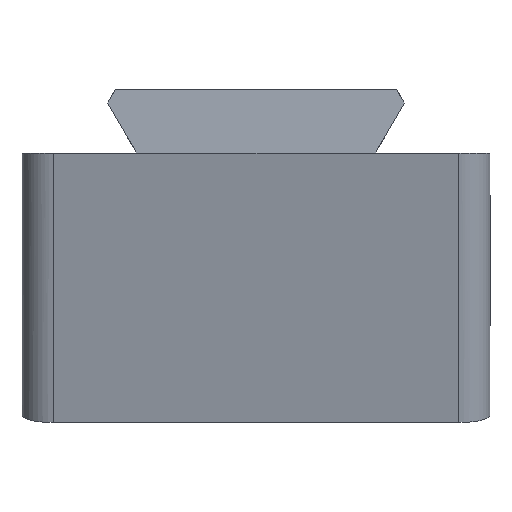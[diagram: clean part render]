
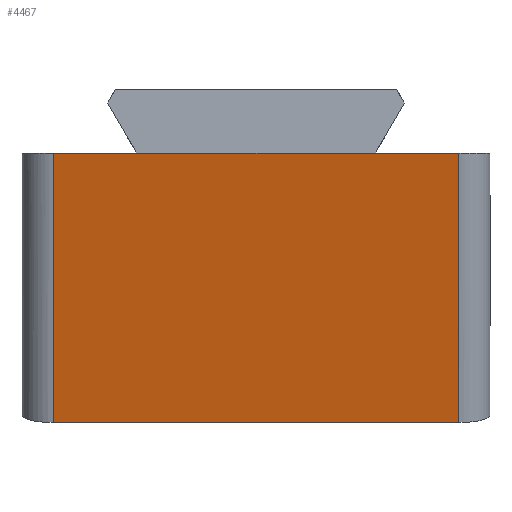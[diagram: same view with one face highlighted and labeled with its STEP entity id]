
A CAD part, left-side view. The second image highlights one B-rep face of the part: STEP entity #4467.
In plain terms, the highlighted planar face has unit normal (-0.974, 0, -0.225).
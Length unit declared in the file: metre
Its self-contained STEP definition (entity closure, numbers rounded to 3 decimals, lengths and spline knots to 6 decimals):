
#652=ORIENTED_EDGE('',*,*,#1782,.T.);
#653=ORIENTED_EDGE('',*,*,#1969,.T.);
#654=ORIENTED_EDGE('',*,*,#1712,.F.);
#655=ORIENTED_EDGE('',*,*,#1970,.T.);
#656=ORIENTED_EDGE('',*,*,#1794,.T.);
#657=ORIENTED_EDGE('',*,*,#1964,.T.);
#1712=EDGE_CURVE('',#2389,#2390,#2840,.T.);
#1782=EDGE_CURVE('',#2450,#2457,#2885,.T.);
#1794=EDGE_CURVE('',#2466,#2442,#2891,.T.);
#1964=EDGE_CURVE('',#2442,#2450,#2977,.T.);
#1969=EDGE_CURVE('',#2457,#2390,#2978,.T.);
#1970=EDGE_CURVE('',#2389,#2466,#2979,.F.);
#2389=VERTEX_POINT('',#6016);
#2390=VERTEX_POINT('',#6018);
#2442=VERTEX_POINT('',#6129);
#2450=VERTEX_POINT('',#6147);
#2457=VERTEX_POINT('',#6164);
#2466=VERTEX_POINT('',#6186);
#2840=LINE('',#6017,#3289);
#2885=LINE('',#6165,#3334);
#2891=LINE('',#6185,#3340);
#2977=LINE('',#6644,#3426);
#2978=LINE('',#6656,#3427);
#2979=LINE('',#6657,#3428);
#3289=VECTOR('',#5004,1.);
#3334=VECTOR('',#5119,1.);
#3340=VECTOR('',#5137,1.);
#3426=VECTOR('',#5283,1.);
#3427=VECTOR('',#5302,1.);
#3428=VECTOR('',#5303,1.);
#3779=EDGE_LOOP('',(#652,#653,#654,#655,#656,#657));
#4064=FACE_BOUND('',#3779,.T.);
#4322=PLANE('',#4791);
#4467=ADVANCED_FACE('',(#4064),#4322,.F.);
#4791=AXIS2_PLACEMENT_3D('',#6655,#5300,#5301);
#5004=DIRECTION('',(0.,1.,0.));
#5119=DIRECTION('',(0.,1.,0.));
#5137=DIRECTION('',(0.,1.,0.));
#5283=DIRECTION('',(0.,1.,0.));
#5300=DIRECTION('',(0.974,0.,0.225));
#5301=DIRECTION('',(0.225,0.,-0.974));
#5302=DIRECTION('',(0.225,0.,-0.974));
#5303=DIRECTION('',(0.225,0.,-0.974));
#6016=CARTESIAN_POINT('',(0.003981,-0.013,-0.017244));
#6017=CARTESIAN_POINT('',(0.003981,-0.015,-0.017244));
#6018=CARTESIAN_POINT('',(0.003981,0.013,-0.017244));
#6129=CARTESIAN_POINT('',(0.,-0.007695,0.));
#6147=CARTESIAN_POINT('',(0.,0.007695,0.));
#6164=CARTESIAN_POINT('',(0.,0.013,0.));
#6165=CARTESIAN_POINT('',(0.,-0.015,0.));
#6185=CARTESIAN_POINT('',(0.,-0.015,0.));
#6186=CARTESIAN_POINT('',(0.,-0.013,0.));
#6644=CARTESIAN_POINT('',(0.,0.,0.));
#6655=CARTESIAN_POINT('',(0.001991,-0.015,-0.008622));
#6656=CARTESIAN_POINT('',(0.001991,0.013,-0.008622));
#6657=CARTESIAN_POINT('',(0.,-0.013,0.));
